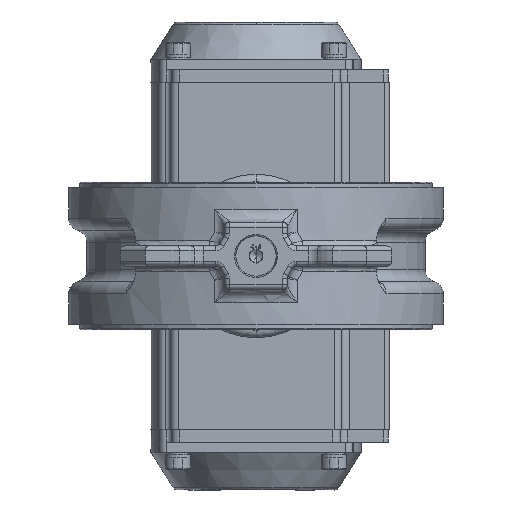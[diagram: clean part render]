
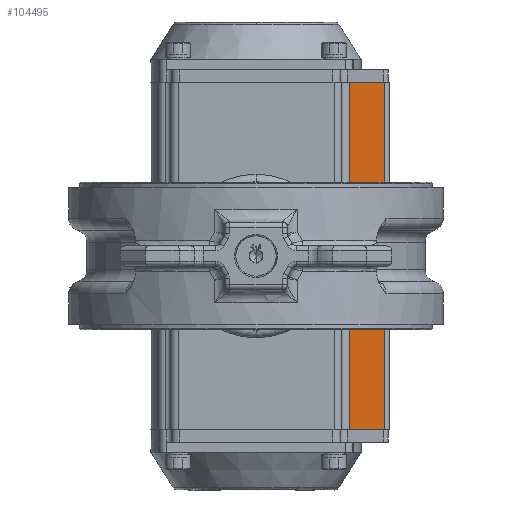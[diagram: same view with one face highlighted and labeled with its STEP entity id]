
A CAD part, front view. The second image highlights one B-rep face of the part: STEP entity #104495.
In plain terms, the highlighted planar face has unit normal (0, -1, 0).
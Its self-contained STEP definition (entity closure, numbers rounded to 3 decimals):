
#2216 = VECTOR ( 'NONE', #209544, 1000. ) ;
#2344 = VECTOR ( 'NONE', #210264, 1000. ) ;
#2348 = VECTOR ( 'NONE', #210255, 1000. ) ;
#2372 = VECTOR ( 'NONE', #210788, 1000. ) ;
#13764 = VERTEX_POINT ( 'NONE', #110394 ) ;
#13767 = VERTEX_POINT ( 'NONE', #110395 ) ;
#13824 = VERTEX_POINT ( 'NONE', #110425 ) ;
#13863 = VERTEX_POINT ( 'NONE', #110449 ) ;
#87353 = AXIS2_PLACEMENT_3D ( 'NONE', #121229, #121250, #121253 ) ;
#87499 = EDGE_LOOP ( 'NONE', ( #150359, #150363, #150367, #150368 ) ) ;
#104495 = ADVANCED_FACE ( 'NONE', ( #121242 ), #121244, .T. ) ;
#110394 = CARTESIAN_POINT ( 'NONE',  ( 37., 201., 69. ) ) ;
#110395 = CARTESIAN_POINT ( 'NONE',  ( 51., 201., 69. ) ) ;
#110425 = CARTESIAN_POINT ( 'NONE',  ( 37., 201., -69. ) ) ;
#110449 = CARTESIAN_POINT ( 'NONE',  ( 51., 201., -69. ) ) ;
#121229 = CARTESIAN_POINT ( 'NONE',  ( 34., 201., -69. ) ) ;
#121242 = FACE_OUTER_BOUND ( 'NONE', #87499, .T. ) ;
#121244 = PLANE ( 'NONE',  #87353 ) ;
#121250 = DIRECTION ( 'NONE',  ( 0., -1., 0. ) ) ;
#121253 = DIRECTION ( 'NONE',  ( 0., 0., -1. ) ) ;
#150359 = ORIENTED_EDGE ( 'NONE', *, *, #215128, .T. ) ;
#150363 = ORIENTED_EDGE ( 'NONE', *, *, #215130, .F. ) ;
#150367 = ORIENTED_EDGE ( 'NONE', *, *, #214916, .F. ) ;
#150368 = ORIENTED_EDGE ( 'NONE', *, *, #215216, .T. ) ;
#209518 = LINE ( 'NONE', #209521, #2216 ) ;
#209521 = CARTESIAN_POINT ( 'NONE',  ( 0., 201., 69. ) ) ;
#209544 = DIRECTION ( 'NONE',  ( 1., 0., 0. ) ) ;
#210190 = LINE ( 'NONE', #210218, #2348 ) ;
#210218 = CARTESIAN_POINT ( 'NONE',  ( 0., 201., -69. ) ) ;
#210243 = LINE ( 'NONE', #210258, #2344 ) ;
#210255 = DIRECTION ( 'NONE',  ( 1., 0., 0. ) ) ;
#210258 = CARTESIAN_POINT ( 'NONE',  ( 51., 201., 248.897 ) ) ;
#210264 = DIRECTION ( 'NONE',  ( 0., 0., -1. ) ) ;
#210771 = LINE ( 'NONE', #210773, #2372 ) ;
#210773 = CARTESIAN_POINT ( 'NONE',  ( 37., 201., -69. ) ) ;
#210788 = DIRECTION ( 'NONE',  ( 0., 0., -1. ) ) ;
#214916 = EDGE_CURVE ( 'NONE', #13764, #13767, #209518, .T. ) ;
#215128 = EDGE_CURVE ( 'NONE', #13824, #13863, #210190, .T. ) ;
#215130 = EDGE_CURVE ( 'NONE', #13767, #13863, #210243, .T. ) ;
#215216 = EDGE_CURVE ( 'NONE', #13764, #13824, #210771, .T. ) ;
